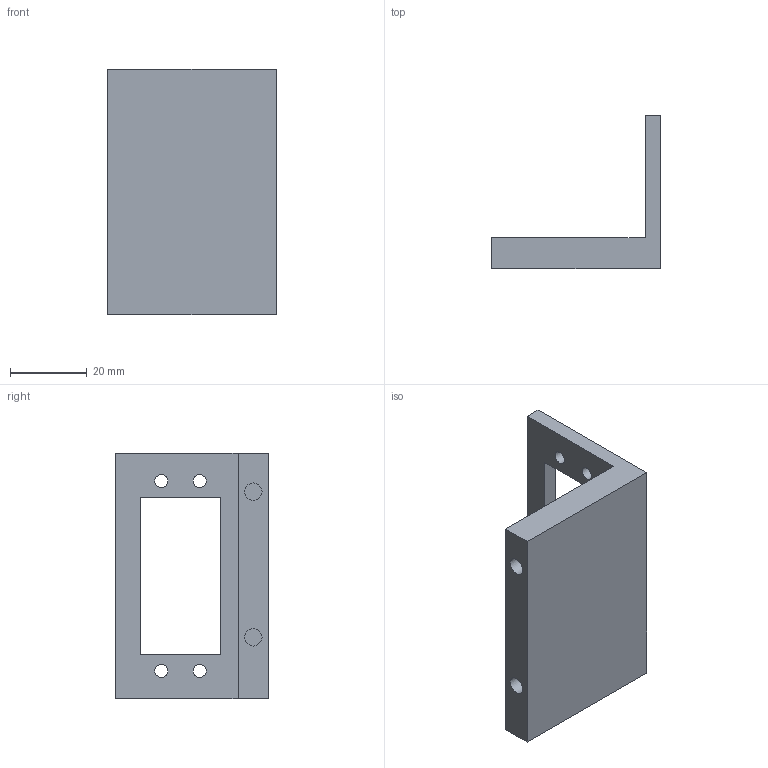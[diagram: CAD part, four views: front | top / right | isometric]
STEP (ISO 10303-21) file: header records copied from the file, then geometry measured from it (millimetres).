
FILE_DESCRIPTION(('Open CASCADE Model'),'2;1');
FILE_NAME('Open CASCADE Shape Model','2026-10-06T19:56:10',('Author'),( 'Open CASCADE'),'Open CASCADE STEP processor 7.9','Open CASCADE 7.9' ,'Unknown');
FILE_SCHEMA(('AUTOMOTIVE_DESIGN { 1 0 10303 214 1 1 1 1 }'));
Length unit declared in the file: millimetre
Products named in the file (1): Open CASCADE STEP translator 7.9 44
Bounding box: 44 x 40 x 64 mm (x, y, z)
Volume: 25826.6 mm3; surface area: 11743.5 mm2
Topology: 1 solids, 1 shells, 20 faces, 48 edges, 32 vertices
Faces by surface type: plane 14, cylinder 6
Full cylindrical faces by diameter (mm): 3.4 x4, 4.5 x2
Entity records: 1252 total; most frequent: CARTESIAN_POINT 273, DIRECTION 172, LINE 104, VECTOR 104, ORIENTED_EDGE 96, PCURVE 96, DEFINITIONAL_REPRESENTATION 96, EDGE_CURVE 48
